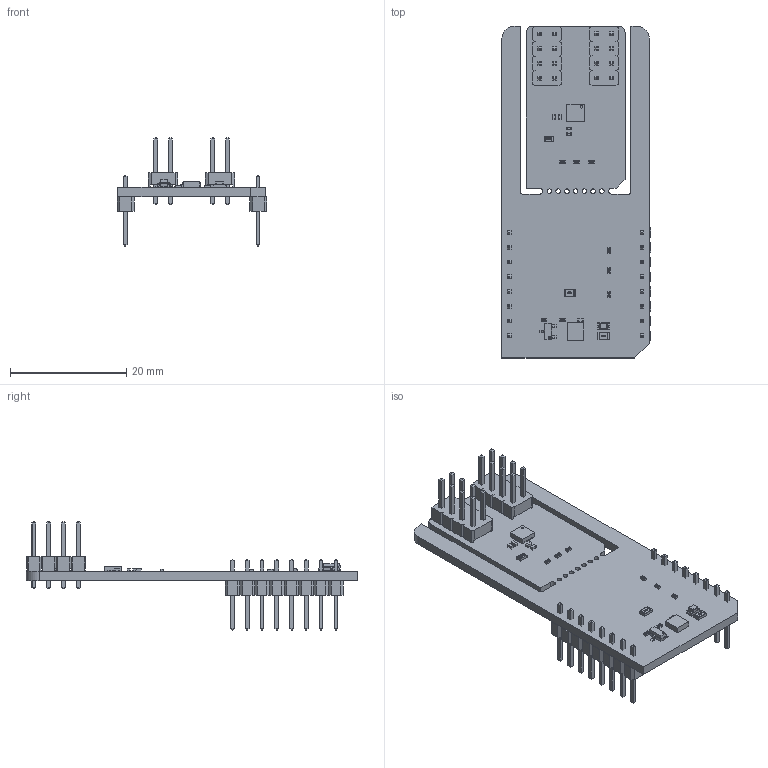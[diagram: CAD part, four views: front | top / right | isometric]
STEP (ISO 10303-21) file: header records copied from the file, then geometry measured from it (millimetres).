
FILE_DESCRIPTION(('Open CASCADE Model'),'2;1');
FILE_NAME('Open CASCADE Shape Model','2026-01-22T12:26:59',('Author'),( 'Open CASCADE'),'Open CASCADE STEP processor 6.8','Open CASCADE 6.8' ,'Unknown');
FILE_SCHEMA(('AUTOMOTIVE_DESIGN { 1 0 10303 214 1 1 1 1 }'));
Length unit declared in the file: millimetre
Products named in the file (43): PCB; Board; R9; User_Library-R_0402; R8; R7; R6; R5; R3; J2; HM2x4; 6130xx21121_PIN; 61300821121; J1; C5; User_Library-SMD_CAPACITOR0402; C4; C3; C2; U2; QFN-16; JP1; User_Library-R_0805; R1; LD1; led_0805_green; R2; C1; R4; Q1; SOT23-3; U1; 737488224; Extruded; MBD1; Header_1x8; Free-Models; 1240637040; User_Library-PinHeaderX5-1_PinHeaderX5_Body_1; User_Library-PinHeaderX5-1_PinHeaderX5_Pins_1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
Assembly tree (64 placements, depth 7):
  PCB
    Board
    R9
      User_Library-R_0402
    R8
      User_Library-R_0402
    R7
      User_Library-R_0402
    R6
      User_Library-R_0402
    R5
      User_Library-R_0402
    R3
      User_Library-R_0402
    J2
      HM2x4
        6130xx21121_PIN  x8
        61300821121
    J1
      HM2x4
        6130xx21121_PIN  x8
        61300821121
    C5
      User_Library-SMD_CAPACITOR0402
    C4
      User_Library-SMD_CAPACITOR0402
    C3
      User_Library-SMD_CAPACITOR0402
    C2
      User_Library-SMD_CAPACITOR0402
    U2
      QFN-16
    JP1
      User_Library-R_0805
    R1
      User_Library-R_0805
    LD1
      led_0805_green
    R2
      User_Library-R_0402
    C1
      User_Library-SMD_CAPACITOR0402
    R4
      User_Library-R_0402
    Q1
      SOT23-3
    U1
      737488224
        Extruded
    MBD1
      Header_1x8  x2
        PCB
          Free-Models
            1240637040  x2
              User_Library-PinHeaderX5-1_PinHeaderX5_Body_1
              User_Library-PinHeaderX5-1_PinHeaderX5_Pins_1
    JP2
      User_Library-R_0603
Bounding box: 25.78 x 57.15 x 18.65 mm (x, y, z)
Volume: 2961.3 mm3; surface area: 5644.1 mm2
Topology: 80 solids, 80 shells, 2312 faces, 5778 edges, 3676 vertices
Faces by surface type: plane 1809, bspline 337, cylinder 120, sphere 46
Full cylindrical faces by diameter (mm): 0.8 x7
Entity records: 36197 total; most frequent: CARTESIAN_POINT 11501, ORIENTED_EDGE 4130, DIRECTION 3454, EDGE_CURVE 2065, LINE 1720, VECTOR 1720, VERTEX_POINT 1342, AXIS2_PLACEMENT_3D 867
